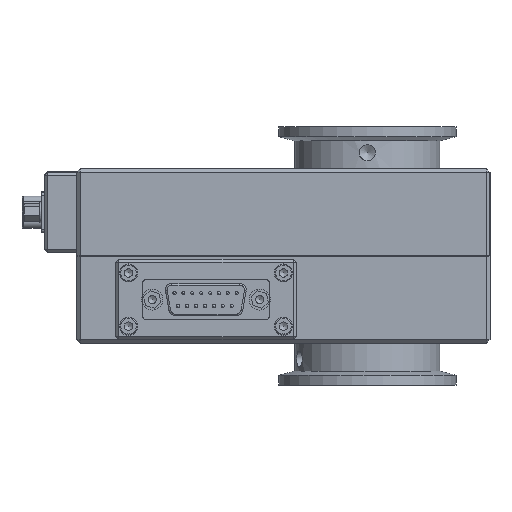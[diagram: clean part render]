
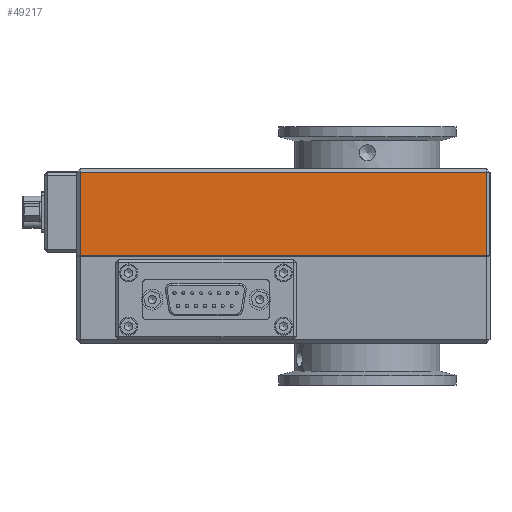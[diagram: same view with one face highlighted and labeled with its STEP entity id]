
A CAD part, left-side view. The second image highlights one B-rep face of the part: STEP entity #49217.
In plain terms, the highlighted planar face has unit normal (-1, 0, 0) as drawn and (0, 1, 0) by its records, which use the part's own axes.
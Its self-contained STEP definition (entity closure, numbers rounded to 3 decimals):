
#48661=CARTESIAN_POINT('',(-1.,128.0,27.0));
#48662=VERTEX_POINT('',#48661);
#48669=CARTESIAN_POINT('',(-127.,128.,27.0));
#48670=VERTEX_POINT('',#48669);
#48671=CARTESIAN_POINT('',(-127.,128.,27.0));
#48672=DIRECTION('',(1.0,0.0,0.0));
#48673=VECTOR('',#48672,126.0);
#48674=LINE('',#48671,#48673);
#48675=EDGE_CURVE('',#48670,#48662,#48674,.T.);
#48925=CARTESIAN_POINT('',(-1.,128.,1.0));
#48926=VERTEX_POINT('',#48925);
#48947=CARTESIAN_POINT('',(-127.,128.,1.0));
#48948=VERTEX_POINT('',#48947);
#49133=CARTESIAN_POINT('',(-127.,128.,27.0));
#49134=DIRECTION('',(0.0,0.0,-1.0));
#49135=VECTOR('',#49134,26.0);
#49136=LINE('',#49133,#49135);
#49137=EDGE_CURVE('',#48670,#48948,#49136,.T.);
#49157=CARTESIAN_POINT('',(-127.,128.,1.0));
#49158=DIRECTION('',(1.0,0.0,0.0));
#49159=VECTOR('',#49158,126.0);
#49160=LINE('',#49157,#49159);
#49161=EDGE_CURVE('',#48948,#48926,#49160,.T.);
#49179=CARTESIAN_POINT('',(-1.,128.0,1.0));
#49180=DIRECTION('',(0.0,0.0,1.0));
#49181=VECTOR('',#49180,26.0);
#49182=LINE('',#49179,#49181);
#49183=EDGE_CURVE('',#48926,#48662,#49182,.T.);
#49206=CARTESIAN_POINT('',(-128.,128.,0.0));
#49207=DIRECTION('',(0.0,1.0,0.0));
#49208=DIRECTION('',(0.0,0.0,1.0));
#49209=AXIS2_PLACEMENT_3D('',#49206,#49207,#49208);
#49210=PLANE('',#49209);
#49211=ORIENTED_EDGE('',*,*,#49183,.F.);
#49212=ORIENTED_EDGE('',*,*,#49161,.F.);
#49213=ORIENTED_EDGE('',*,*,#49137,.F.);
#49214=ORIENTED_EDGE('',*,*,#48675,.T.);
#49215=EDGE_LOOP('',(#49211,#49212,#49213,#49214));
#49216=FACE_OUTER_BOUND('',#49215,.T.);
#49217=ADVANCED_FACE('',(#49216),#49210,.T.);
